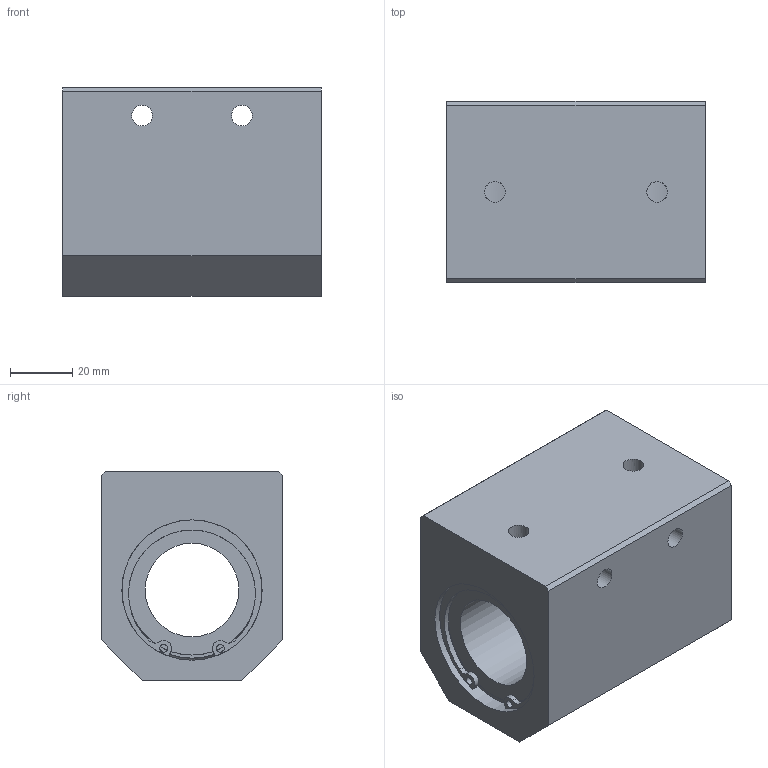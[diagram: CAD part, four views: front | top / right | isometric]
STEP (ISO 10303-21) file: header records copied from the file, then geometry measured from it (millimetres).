
FILE_DESCRIPTION((''),'2;1');
FILE_NAME('D:\製品 (図面)\カタログ用3D\メンテナンスフリー関連\STEP形式\CH-MF\CH30MF.stp','2010-06-01T15:30:53',('Tsuchiya'),(''),'Autodesk Inventor 10','Autodesk Inventor 10','');
FILE_SCHEMA(('AUTOMOTIVE_DESIGN { 1 0 10303 214 1 1 1 1 }'));
Length unit declared in the file: millimetre
Products named in the file (1): CH30MF
Bounding box: 83 x 58 x 67 mm (x, y, z)
Volume: 236263.7 mm3; surface area: 39825.4 mm2
Topology: 1 solids, 3 shells, 75 faces, 207 edges, 128 vertices
Faces by surface type: plane 33, bspline 22, cylinder 18, torus 2
Full cylindrical faces by diameter (mm): 2.5 x2, 30 x1, 41.7 x2, 43 x2, 45 x4
Entity records: 2538 total; most frequent: CARTESIAN_POINT 742, DIRECTION 388, ORIENTED_EDGE 336, AXIS2_PLACEMENT_3D 168, EDGE_CURVE 168, EDGE_LOOP 118, CIRCLE 114, VERTEX_POINT 112
